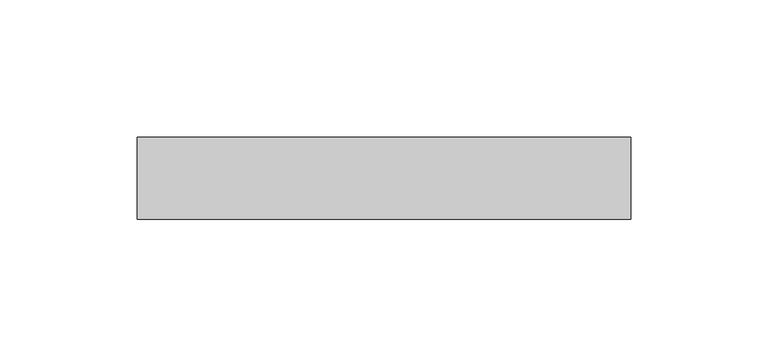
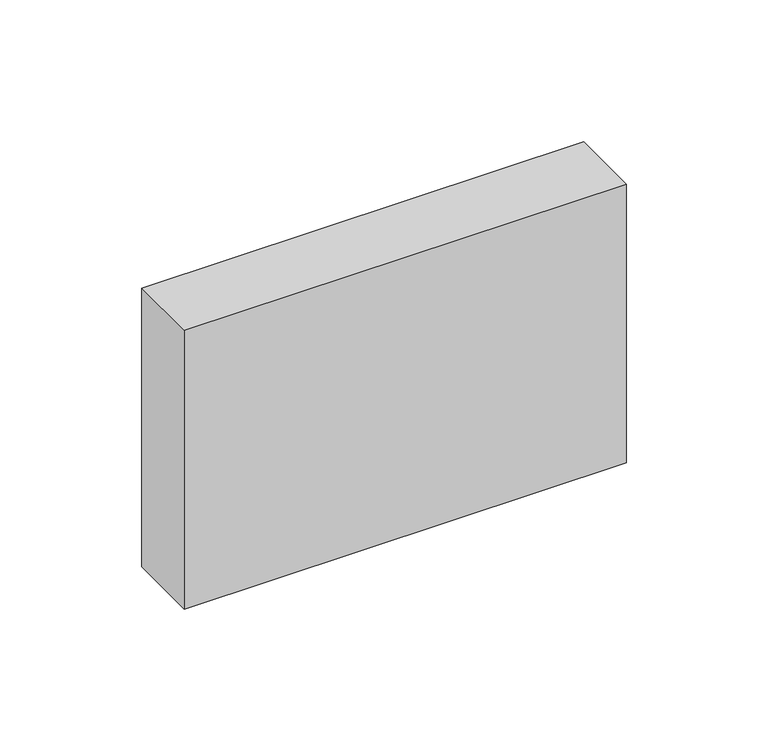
"""IFC4 building model written with IfcOpenShell, lengths in millimetres: proxy geometry, AI_Eqpmt genie clim_Commande centralisée Clim : Commande centralisée Clim."""

from ifc_helpers import new_model, si_unit, origin, origin_with_axes, place, context, project, spatial, polyline, outline, extrude, source, transform, mapped, element, save


def mechanical_equipment_c8f78f9b(model_context):
    return source(origin(), model_context, "Body", "SweptSolid", [
        extrude(outline(polyline([(90.0, 15.0), (90.0, -15.0), (-90.0, -15.0), (-90.0, 15.0), (90.0, 15.0)])), origin_with_axes(), (0.0, 0.0, 1.0), 120.0),
    ])


if __name__ == "__main__":
    model = new_model("IFC4")
    model_context = context("Model", 3, world=origin())
    ifc_project = project(units=[si_unit("LENGTHUNIT", "METRE", prefix="MILLI")], contexts=[model_context])
    site = spatial("IfcSite", under=ifc_project)
    building = spatial("IfcBuilding", under=site)
    placement = place(None, origin())
    mechanical_equipment_shape = mechanical_equipment_c8f78f9b(model_context)
    element("IfcBuildingElementProxy", 1, Name="AI_Eqpmt genie clim_Commande centralisée Clim : Commande centralisée Clim", ObjectType="AI_Eqpmt genie clim_Commande centralisée Clim : Commande centralisée Clim", at=placement, inside=building, context=model_context, shape_type="MappedRepresentation", body=[
        mapped(mechanical_equipment_shape, transform((0.0, 0.0, 0.0), x_axis=(1.0, 0.0, 0.0), y_axis=(0.0, 1.0, 0.0), z_axis=(0.0, 0.0, 1.0))),
    ])
    save(model, "model.ifc")
